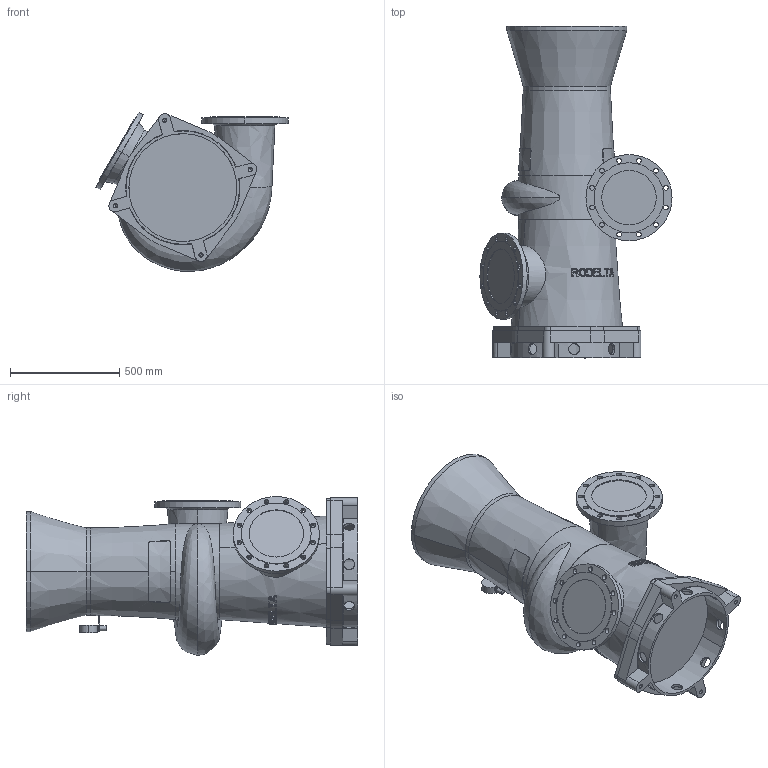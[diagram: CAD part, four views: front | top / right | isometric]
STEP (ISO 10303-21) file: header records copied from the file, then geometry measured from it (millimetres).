
FILE_DESCRIPTION((''),'2;1');
FILE_NAME('8310_VOOR_BLAD_ASM','2024-07-25T',('Lyritlocal'),(''),'PRO/ENGINEER BY PARAMETRIC TECHNOLOGY CORPORATION, 2016360','PRO/ENGINEER BY PARAMETRIC TECHNOLOGY CORPORATION, 2016360','');
FILE_SCHEMA(('CONFIG_CONTROL_DESIGN'));
Length unit declared in the file: millimetre
Products named in the file (3): 8310; 8310_VOET; 8310_VOOR_BLAD_ASM
Assembly tree (2 placements, depth 2):
  8310_VOOR_BLAD_ASM
    8310
    8310_VOET
Bounding box: 880.89 x 1521 x 728.37 mm (x, y, z)
Volume: 290401681.4 mm3; surface area: 4473475.7 mm2
Topology: 2 solids, 6 shells, 545 faces, 1466 edges, 969 vertices
Faces by surface type: plane 342, cylinder 153, cone 40, bspline 6, torus 4
Entity records: 19407 total; most frequent: CARTESIAN_POINT 6110, ORIENTED_EDGE 2900, DIRECTION 2489, EDGE_CURVE 1458, VERTEX_POINT 969, AXIS2_PLACEMENT_3D 967, EDGE_LOOP 661, VECTOR 555
